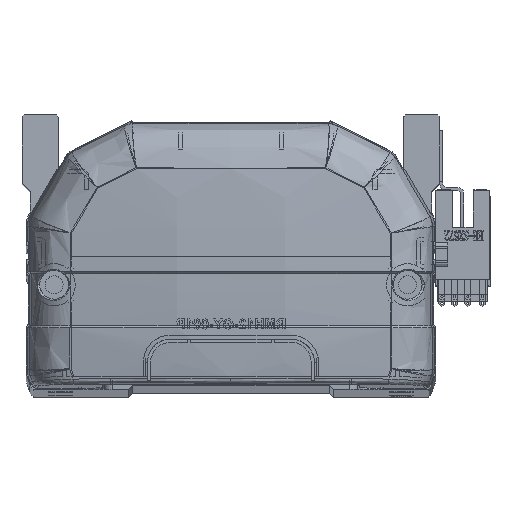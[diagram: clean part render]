
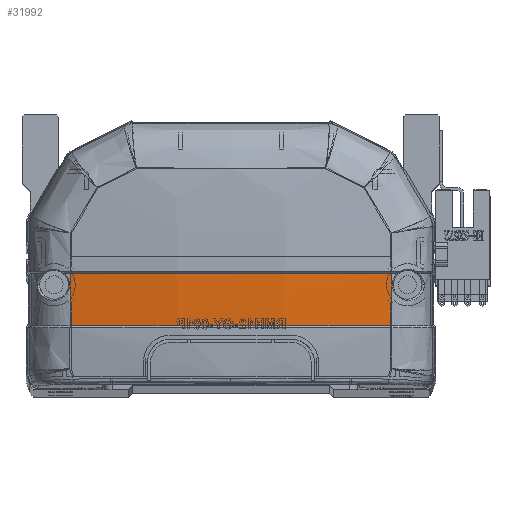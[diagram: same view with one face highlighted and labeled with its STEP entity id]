
A CAD part, top view. The second image highlights one B-rep face of the part: STEP entity #31992.
In plain terms, the highlighted free-form (B-spline) face has degree [3, 3] with [4, 4] control points.
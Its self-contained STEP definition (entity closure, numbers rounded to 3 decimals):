
#2273 = EDGE_CURVE ( 'NONE', #27870, #28126, #15599, .T. ) ;
#2605 = CARTESIAN_POINT ( 'NONE',  ( 39.963, 28.706, -6.372 ) ) ;
#2720 = ORIENTED_EDGE ( 'NONE', *, *, #48727, .F. ) ;
#2753 = ORIENTED_EDGE ( 'NONE', *, *, #47669, .T. ) ;
#3497 = B_SPLINE_CURVE_WITH_KNOTS ( 'NONE', 3,
 ( #51024, #27122, #31912, #26706 ),
 .UNSPECIFIED., .F., .F.,
 ( 4, 4 ),
 ( 0., 1. ),
 .UNSPECIFIED. ) ;
#4913 = CARTESIAN_POINT ( 'NONE',  ( -13.384, 15.83, -8.724 ) ) ;
#7217 = CARTESIAN_POINT ( 'NONE',  ( 39.985, 15.83, -5.879 ) ) ;
#9130 = CARTESIAN_POINT ( 'NONE',  ( 40.461, 28.832, -6.296 ) ) ;
#9329 = CARTESIAN_POINT ( 'NONE',  ( 13.598, 15.499, -10.032 ) ) ;
#9750 = CARTESIAN_POINT ( 'NONE',  ( 13.598, 28.769, -10.535 ) ) ;
#11686 = VERTEX_POINT ( 'NONE', #53805 ) ;
#13500 = CARTESIAN_POINT ( 'NONE',  ( -39.963, 28.706, -6.372 ) ) ;
#14278 = CARTESIAN_POINT ( 'NONE',  ( 39.985, 15.83, -5.879 ) ) ;
#14500 = CARTESIAN_POINT ( 'NONE',  ( -40.461, 15.757, -5.8 ) ) ;
#15505 = CARTESIAN_POINT ( 'NONE',  ( -23.389, 15.83, -7.947 ) ) ;
#15599 = B_SPLINE_CURVE_WITH_KNOTS ( 'NONE', 3,
 ( #21511, #31099, #40666, #2605 ),
 .UNSPECIFIED., .F., .F.,
 ( 4, 4 ),
 ( 0., 1. ),
 .UNSPECIFIED. ) ;
#17606 = FACE_OUTER_BOUND ( 'NONE', #45274, .T. ) ;
#19051 = CARTESIAN_POINT ( 'NONE',  ( 40.461, 24.47, -6.231 ) ) ;
#19852 = CARTESIAN_POINT ( 'NONE',  ( -39.985, 15.83, -5.879 ) ) ;
#19951 = B_SPLINE_CURVE_WITH_KNOTS ( 'NONE', 3,
 ( #31197, #25982, #26196, #30991, #55103, #35959 ),
 .UNSPECIFIED., .F., .F.,
 ( 4, 2, 4 ),
 ( 0., 0.5, 1. ),
 .UNSPECIFIED. ) ;
#20251 = VERTEX_POINT ( 'NONE', #13500 ) ;
#21511 = CARTESIAN_POINT ( 'NONE',  ( 39.985, 15.83, -5.879 ) ) ;
#23229 = CARTESIAN_POINT ( 'NONE',  ( 13.598, 24.342, -10.47 ) ) ;
#23643 = CARTESIAN_POINT ( 'NONE',  ( 40.461, 15.757, -5.8 ) ) ;
#23842 = CARTESIAN_POINT ( 'NONE',  ( 13.38, 15.83, -8.984 ) ) ;
#25982 = CARTESIAN_POINT ( 'NONE',  ( -26.748, 28.706, -8.432 ) ) ;
#26196 = CARTESIAN_POINT ( 'NONE',  ( -13.373, 28.707, -9.468 ) ) ;
#26706 = CARTESIAN_POINT ( 'NONE',  ( -39.985, 15.83, -5.879 ) ) ;
#27122 = CARTESIAN_POINT ( 'NONE',  ( -39.966, 24.412, -6.306 ) ) ;
#27531 = CARTESIAN_POINT ( 'NONE',  ( 39.963, 28.706, -6.372 ) ) ;
#27870 = VERTEX_POINT ( 'NONE', #7217 ) ;
#28126 = VERTEX_POINT ( 'NONE', #27531 ) ;
#29051 = ORIENTED_EDGE ( 'NONE', *, *, #2273, .T. ) ;
#30991 = CARTESIAN_POINT ( 'NONE',  ( 13.375, 28.707, -9.468 ) ) ;
#31099 = CARTESIAN_POINT ( 'NONE',  ( 39.973, 20.12, -6.142 ) ) ;
#31197 = CARTESIAN_POINT ( 'NONE',  ( -39.963, 28.706, -6.372 ) ) ;
#31912 = CARTESIAN_POINT ( 'NONE',  ( -39.973, 20.118, -6.142 ) ) ;
#31992 = ADVANCED_FACE ( 'NONE', ( #17606 ), #42348, .F. ) ;
#33046 = CARTESIAN_POINT ( 'NONE',  ( 40.461, 20.111, -6.066 ) ) ;
#33443 = CARTESIAN_POINT ( 'NONE',  ( -6.692, 15.83, -8.984 ) ) ;
#33463 = CARTESIAN_POINT ( 'NONE',  ( -13.598, 24.342, -10.47 ) ) ;
#33842 = CARTESIAN_POINT ( 'NONE',  ( -26.721, 15.83, -7.624 ) ) ;
#33900 = EDGE_CURVE ( 'NONE', #20251, #28126, #19951, .T. ) ;
#35959 = CARTESIAN_POINT ( 'NONE',  ( 39.963, 28.706, -6.372 ) ) ;
#39040 = CARTESIAN_POINT ( 'NONE',  ( -36.679, 15.83, -6.395 ) ) ;
#40666 = CARTESIAN_POINT ( 'NONE',  ( 39.966, 24.413, -6.306 ) ) ;
#42348 =( BOUNDED_SURFACE ( )  B_SPLINE_SURFACE ( 3, 3, ( 
 ( #23643, #33046, #19051, #9130 ),
 ( #9329, #57163, #23229, #9750 ),
 ( #47167, #56962, #33463, #43016 ),
 ( #14500, #52589, #52185, #42407 ) ),
 .UNSPECIFIED., .F., .F., .F. ) 
 B_SPLINE_SURFACE_WITH_KNOTS ( ( 4, 4 ),
 ( 4, 4 ),
 ( 0., 1. ),
 ( 0., 1. ),
 .UNSPECIFIED. ) 
 GEOMETRIC_REPRESENTATION_ITEM ( )  RATIONAL_B_SPLINE_SURFACE ( (
 ( 1., 1., 1., 1.),
 ( 0.992, 0.992, 0.992, 0.992),
 ( 0.992, 0.992, 0.992, 0.992),
 ( 1., 1., 1., 1.) ) ) 
 REPRESENTATION_ITEM ( '' )  SURFACE ( )  );
#42407 = CARTESIAN_POINT ( 'NONE',  ( -40.461, 28.832, -6.296 ) ) ;
#43016 = CARTESIAN_POINT ( 'NONE',  ( -13.598, 28.769, -10.535 ) ) ;
#43601 = CARTESIAN_POINT ( 'NONE',  ( -33.365, 15.83, -6.848 ) ) ;
#45274 = EDGE_LOOP ( 'NONE', ( #29051, #59369, #2753, #2720 ) ) ;
#47167 = CARTESIAN_POINT ( 'NONE',  ( -13.598, 15.499, -10.032 ) ) ;
#47669 = EDGE_CURVE ( 'NONE', #20251, #11686, #3497, .T. ) ;
#48727 = EDGE_CURVE ( 'NONE', #27870, #11686, #58993, .T. ) ;
#51024 = CARTESIAN_POINT ( 'NONE',  ( -39.963, 28.706, -6.372 ) ) ;
#52185 = CARTESIAN_POINT ( 'NONE',  ( -40.461, 24.47, -6.231 ) ) ;
#52366 = CARTESIAN_POINT ( 'NONE',  ( 26.761, 15.83, -7.945 ) ) ;
#52589 = CARTESIAN_POINT ( 'NONE',  ( -40.461, 20.111, -6.066 ) ) ;
#53805 = CARTESIAN_POINT ( 'NONE',  ( -39.985, 15.83, -5.879 ) ) ;
#55103 = CARTESIAN_POINT ( 'NONE',  ( 26.749, 28.706, -8.432 ) ) ;
#56962 = CARTESIAN_POINT ( 'NONE',  ( -13.598, 19.918, -10.302 ) ) ;
#57163 = CARTESIAN_POINT ( 'NONE',  ( 13.598, 19.918, -10.302 ) ) ;
#58993 = B_SPLINE_CURVE_WITH_KNOTS ( 'NONE', 3,
 ( #14278, #52366, #23842, #33443, #4913, #15505, #33842, #43601, #39040, #19852 ),
 .UNSPECIFIED., .F., .F.,
 ( 4, 2, 2, 2, 4 ),
 ( 0., 0.04, 0.06, 0.07, 0.08 ),
 .UNSPECIFIED. ) ;
#59369 = ORIENTED_EDGE ( 'NONE', *, *, #33900, .F. ) ;
